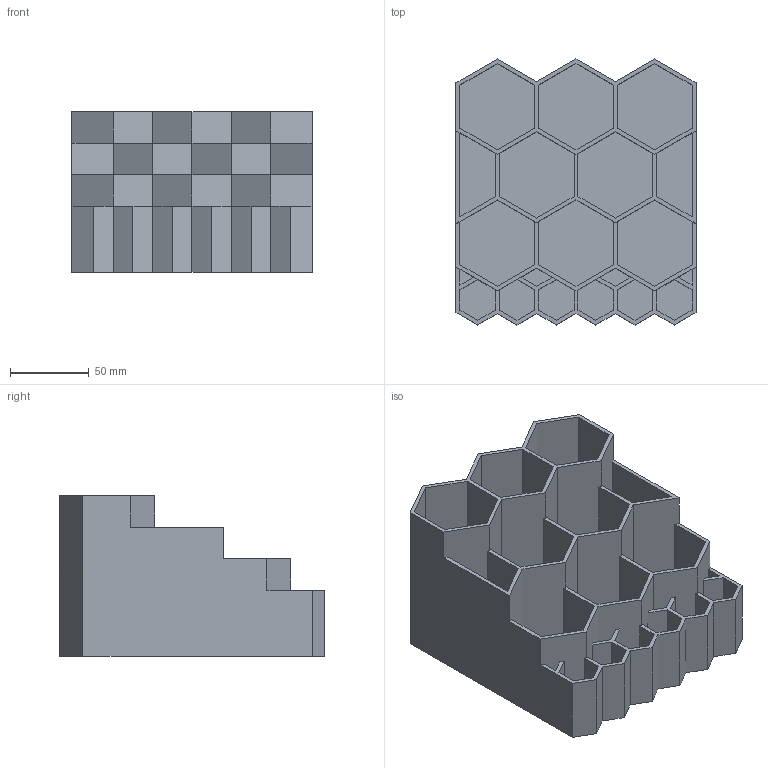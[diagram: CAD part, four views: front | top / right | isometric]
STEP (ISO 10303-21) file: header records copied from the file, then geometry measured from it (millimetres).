
FILE_DESCRIPTION (( 'STEP AP203' ), '1' );
FILE_NAME ('SupportOutils v2.STEP', '2022-09-03T14:51:54', ( '' ), ( '' ), 'SwSTEP 2.0', 'SolidWorks 2019', '' );
FILE_SCHEMA (( 'CONFIG_CONTROL_DESIGN' ));
Length unit declared in the file: millimetre
Products named in the file (1): SupportOutils v2
Bounding box: 152.5 x 168.88 x 102 mm (x, y, z)
Volume: 314378 mm3; surface area: 257165.5 mm2
Topology: 1 solids, 1 shells, 145 faces, 420 edges, 280 vertices
Faces by surface type: plane 145
Entity records: 4751 total; most frequent: CARTESIAN_POINT 846, ORIENTED_EDGE 840, DIRECTION 712, EDGE_CURVE 420, VECTOR 420, LINE 420, VERTEX_POINT 280, EDGE_LOOP 148
